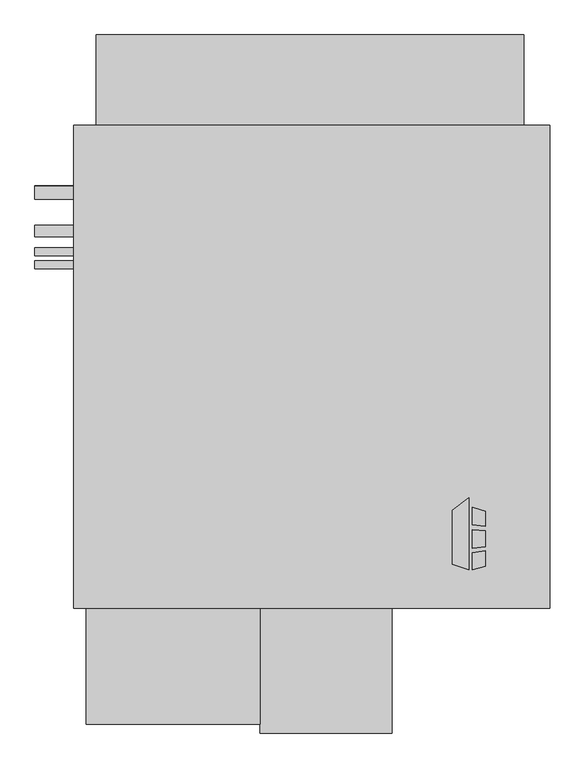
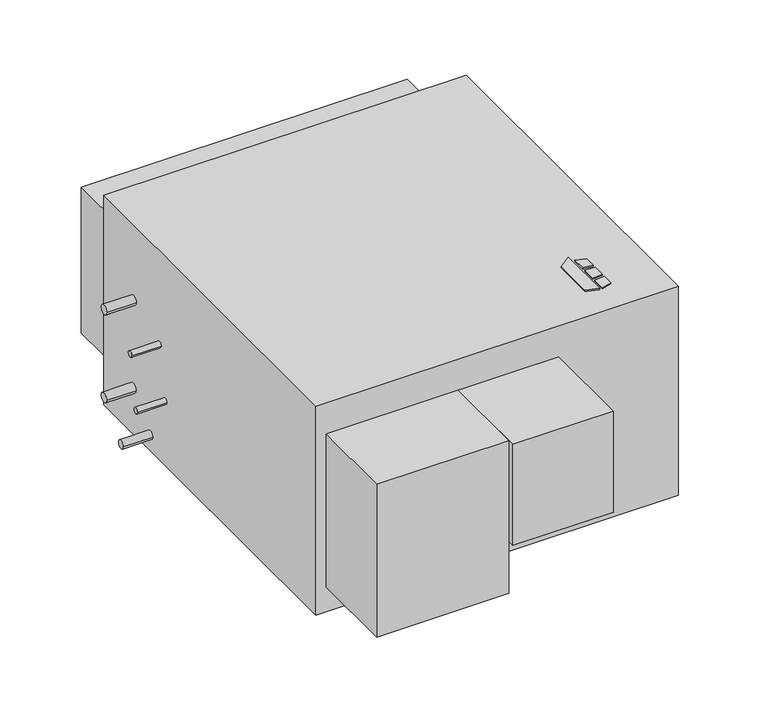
"""IFC4 building model written with IfcOpenShell, lengths in millimetres: proxy geometry, Horizontal_Direct_Drive_Blower_Coil_Unit_-_HDY_-_IEC_-_4-Pipe_LH_2022 : Size 10 - 460v/60Hz/3Ph - 6/2 Coil."""

import ifcopenshell
import ifcopenshell.guid

model = None  # the IFC model being written
_history = None  # IfcOwnerHistory: only IFC2X3 demands one
_inside = {}  # id of a spatial element -> (the spatial element, [elements in it])
_under = {}  # id of a project, library or spatial element -> (it, [spatial elements below it])
_declared = {}  # id of a project -> (the project, [libraries it declares])
_typed = {}  # id of a type object -> (the type object, [elements of that type])
_made_of = {}  # id of a material, layer set ... -> (it, [elements and type objects made of it])


def new_model(schema):
    """Start an empty IFC model of exactly this schema.

    Asked for "IFC4X3", IfcOpenShell would pick the latest addendum, in which some entities
    have other attributes; the version numbers below select the first issue.
    IFC2X3 requires an IfcOwnerHistory on every rooted entity: one is made here for all.
    """
    global model, _history
    if schema == "IFC4X3":
        model = ifcopenshell.file(schema_version=(4, 3, 0, 0))
    else:
        model = ifcopenshell.file(schema=schema)
    _inside.clear()
    _under.clear()
    _declared.clear()
    _typed.clear()
    _made_of.clear()
    _history = None
    if model.schema == "IFC2X3":
        org = make("IfcOrganization", Name="unknown")
        user = make(
            "IfcPersonAndOrganization",
            ThePerson=make("IfcPerson", FamilyName="unknown"),
            TheOrganization=org,
        )
        app = make(
            "IfcApplication",
            ApplicationDeveloper=org,
            Version="unknown",
            ApplicationFullName="unknown",
            ApplicationIdentifier="unknown",
        )
        _history = make(
            "IfcOwnerHistory",
            OwningUser=user,
            OwningApplication=app,
            ChangeAction="ADDED",
            CreationDate=0,
        )
    return model


def make(cls, **values):
    """One entity of the class cls with the attributes given. An attribute that is None is left unset."""
    return model.create_entity(
        cls, **{name: value for name, value in values.items() if value is not None}
    )


def rooted(cls, **values):
    """An entity with a GlobalId (a new one), such as an element, a storey or a relation."""
    return make(cls, GlobalId=ifcopenshell.guid.new(), OwnerHistory=_history, **values)


def si_unit(unit_type, name, prefix=None):
    """IfcSIUnit, for example si_unit("LENGTHUNIT", "METRE", prefix="MILLI")."""
    return make("IfcSIUnit", UnitType=unit_type, Prefix=prefix, Name=name)


def assignment(units):
    """IfcUnitAssignment: the units of a project."""
    return None if units is None else make("IfcUnitAssignment", Units=units)


def point(xyz):
    """IfcCartesianPoint."""
    return None if xyz is None else make("IfcCartesianPoint", Coordinates=xyz)


def direction(xyz):
    """IfcDirection."""
    return None if xyz is None else make("IfcDirection", DirectionRatios=xyz)


def frame(location, z_axis=None, x_axis=None):
    """IfcAxis2Placement3D, a coordinate frame: its origin and axes. An axis left out is left unset."""
    return make(
        "IfcAxis2Placement3D",
        Location=point(location),
        Axis=direction(z_axis),
        RefDirection=direction(x_axis),
    )


def frame_2d(location, x_axis=None):
    """IfcAxis2Placement2D, a coordinate frame in the plane: its origin and x axis."""
    return make(
        "IfcAxis2Placement2D", Location=point(location), RefDirection=direction(x_axis)
    )


def origin():
    """The frame at (0, 0, 0) with its axes left unset."""
    return frame((0.0, 0.0, 0.0))


def origin_with_axes():
    """The frame at (0, 0, 0) with the z axis (0, 0, 1) and the x axis (1, 0, 0) written out."""
    return frame((0.0, 0.0, 0.0), z_axis=(0.0, 0.0, 1.0), x_axis=(1.0, 0.0, 0.0))


def place(relative_to, where):
    """IfcLocalPlacement: puts the frame where relative to a parent placement (None: the world)."""
    return make(
        "IfcLocalPlacement", PlacementRelTo=relative_to, RelativePlacement=where
    )


def context(
    kind, dimensions, precision=None, world=None, true_north=None, identifier=None
):
    """IfcGeometricRepresentationContext, for example the 3D "Model" context."""
    return make(
        "IfcGeometricRepresentationContext",
        ContextIdentifier=identifier,
        ContextType=kind,
        CoordinateSpaceDimension=dimensions,
        Precision=precision,
        WorldCoordinateSystem=world,
        TrueNorth=true_north,
    )


def project(units=None, contexts=None):
    """IfcProject with its units and contexts."""
    return rooted(
        "IfcProject",
        Name="project",
        RepresentationContexts=contexts,
        UnitsInContext=assignment(units),
    )


def spatial(cls, under=None, at=None, **own):
    """A site, building, storey or space (cls), placed at a placement, below another one or the project."""
    s = rooted(cls, ObjectPlacement=at, **own)
    if under is not None:
        _under.setdefault(under.id(), (under, []))[1].append(s)
    return s


def polyline(points):
    """IfcPolyline through the points."""
    return make("IfcPolyline", Points=[point(p) for p in points])


def circle_curve(where, radius):
    """IfcCircle in the frame where."""
    return make("IfcCircle", Position=where, Radius=radius)


def trimmed(basis, trim1, trim2, sense, master):
    """IfcTrimmedCurve: the piece of a basis curve between two trims."""
    return make(
        "IfcTrimmedCurve",
        BasisCurve=basis,
        Trim1=trim1,
        Trim2=trim2,
        SenseAgreement=sense,
        MasterRepresentation=master,
    )


def segment(curve, same_sense, transition):
    """IfcCompositeCurveSegment."""
    return make(
        "IfcCompositeCurveSegment",
        Transition=transition,
        SameSense=same_sense,
        ParentCurve=curve,
    )


def composite_curve(segments, self_intersect=None):
    """IfcCompositeCurve: segments joined end to end."""
    return make("IfcCompositeCurve", Segments=segments, SelfIntersect=self_intersect)


def outline(outer, holes=None, kind="AREA"):
    """IfcArbitraryClosedProfileDef: a profile drawn as a closed curve; with holes, ...WithVoids."""
    if holes is None:
        return make("IfcArbitraryClosedProfileDef", ProfileType=kind, OuterCurve=outer)
    return make(
        "IfcArbitraryProfileDefWithVoids",
        ProfileType=kind,
        OuterCurve=outer,
        InnerCurves=holes,
    )


def extrude(swept, where, along, depth):
    """IfcExtrudedAreaSolid: the profile swept, set in the frame where, extruded along a direction by depth."""
    return make(
        "IfcExtrudedAreaSolid",
        SweptArea=swept,
        Position=where,
        ExtrudedDirection=direction(along),
        Depth=depth,
    )


def shape(context_of_items, identifier, shape_type, items):
    """IfcShapeRepresentation: the items that make up one representation, for example the "Body"."""
    return make(
        "IfcShapeRepresentation",
        ContextOfItems=context_of_items,
        RepresentationIdentifier=identifier,
        RepresentationType=shape_type,
        Items=items,
    )


def source(mapping_origin, context_of_items, identifier, shape_type, items):
    """IfcRepresentationMap: a shape defined once, which mapped items show again and again."""
    return make(
        "IfcRepresentationMap",
        MappingOrigin=mapping_origin,
        MappedRepresentation=shape(context_of_items, identifier, shape_type, items),
    )


def transform(
    local_origin,
    x_axis=None,
    y_axis=None,
    z_axis=None,
    scale=None,
    scale2=None,
    scale3=None,
    uniform=True,
):
    """IfcCartesianTransformationOperator3D, or its non-uniform kind. x_axis, y_axis, z_axis: its Axis1, 2, 3."""
    if uniform:
        return make(
            "IfcCartesianTransformationOperator3D",
            Axis1=direction(x_axis),
            Axis2=direction(y_axis),
            LocalOrigin=point(local_origin),
            Scale=scale,
            Axis3=direction(z_axis),
        )
    return make(
        "IfcCartesianTransformationOperator3DnonUniform",
        Axis1=direction(x_axis),
        Axis2=direction(y_axis),
        LocalOrigin=point(local_origin),
        Scale=scale,
        Axis3=direction(z_axis),
        Scale2=scale2,
        Scale3=scale3,
    )


def mapped(mapping_source, mapping_target):
    """IfcMappedItem: shows the shape of a source again, moved by a transform."""
    return make(
        "IfcMappedItem", MappingSource=mapping_source, MappingTarget=mapping_target
    )


def made_of(thing, what):
    """Note that an element or type object is made of a material, layer set ...; save() writes the relation."""
    if what is not None:
        _made_of.setdefault(what.id(), (what, []))[1].append(thing)
    return thing


def element(
    cls,
    number,
    at=None,
    inside=None,
    cuts=None,
    type_object=None,
    material=None,
    context=None,
    identifier="Body",
    shape_type=None,
    held_by="IfcProductDefinitionShape",
    body=None,
    shapes=None,
    **own,
):
    """One element of the class cls, such as IfcWall. Its Tag is "e" and its number.

    at: its placement. inside: the storey or other place that contains it. cuts: it is an
    opening in that element (IfcRelVoidsElement). A single representation is given by context,
    identifier, shape_type and body (its items); several are given by shapes. held_by: the class
    of the entity that holds the representations. save() writes the other relations.
    """
    e = rooted(cls, Tag="e%d" % number, ObjectPlacement=at, **own)
    if body is not None:
        shapes = [shape(context, identifier, shape_type, body)]
    if shapes is not None:
        e.Representation = make(held_by, Representations=shapes)
    if inside is not None:
        _inside.setdefault(inside.id(), (inside, []))[1].append(e)
    if cuts is not None:
        rooted(
            "IfcRelVoidsElement", RelatingBuildingElement=cuts, RelatedOpeningElement=e
        )
    if type_object is not None:
        _typed.setdefault(type_object.id(), (type_object, []))[1].append(e)
    return made_of(e, material)


def aggregate(whole, parts):
    """IfcRelAggregates: a whole, such as a stair, and the parts it consists of."""
    return rooted("IfcRelAggregates", RelatingObject=whole, RelatedObjects=parts)


def save(model, path):
    """Write the relations noted so far, then the file.

    IfcRelAggregates (storeys below a building ...), IfcRelContainedInSpatialStructure (elements
    in a storey), IfcRelDefinesByType, IfcRelAssociatesMaterial and IfcRelDeclares: one each for
    every whole, place, type object, material and project.
    """
    for whole, parts in _under.values():
        aggregate(whole, parts)
    for where, things in _inside.values():
        rooted(
            "IfcRelContainedInSpatialStructure",
            RelatedElements=things,
            RelatingStructure=where,
        )
    for kind, things in _typed.values():
        rooted("IfcRelDefinesByType", RelatedObjects=things, RelatingType=kind)
    for what, things in _made_of.values():
        rooted("IfcRelAssociatesMaterial", RelatedObjects=things, RelatingMaterial=what)
    for by, libraries in _declared.values():
        rooted("IfcRelDeclares", RelatingContext=by, RelatedDefinitions=libraries)
    model.write(path)


def mechanical_equipment_31d6afd8(model_context):
    return source(origin(), model_context, "Body", "SweptSolid", [
        extrude(outline(polyline([(-319.3980239, -267.6578476), (-286.8397272, -242.2205184), (-286.8397272, -384.175), (-319.3980239, -373.9554201), (-319.3980239, -267.6578476)])), origin_with_axes(), (0.0, 0.0, 1.0), 3.175),
        extrude(outline(polyline([(-280.0813942, -295.529852), (-280.0813942, -261.0499379), (-254.0, -269.2365115), (-254.0, -298.7322446), (-280.0813942, -295.529852)])), origin_with_axes(), (0.0, 0.0, 1.0), 3.175),
        extrude(outline(polyline([(-254.0, -377.1865115), (-280.0813942, -384.175), (-280.0813942, -350.9536996), (-254.0, -347.4118564), (-254.0, -377.1865115)])), origin_with_axes(), (0.0, 0.0, 1.0), 3.175),
        extrude(outline(polyline([(-254.0, -307.8138277), (-254.0, -339.063983), (-280.0813942, -341.805248), (-280.0813942, -305.9475378), (-254.0, -307.8138277)])), origin_with_axes(), (0.0, 0.0, 1.0), 3.175),
        extrude(outline(composite_curve([segment(trimmed(circle_curve(frame_2d((358.775, -205.7657415)), 12.7), [point((371.475, -205.7657415))], [point((346.075, -205.7657415))], False, "CARTESIAN"), True, "CONTINUOUS"), segment(trimmed(circle_curve(frame_2d((358.775, -205.7657415)), 12.7), [point((346.075, -205.7657415))], [point((371.475, -205.7657415))], False, "CARTESIAN"), True, "CONTINUOUS")], self_intersect=False)), frame((-1143.0, 0.0, 0.0), z_axis=(1.0, 0.0, 0.0), x_axis=(0.0, 1.0, 0.0)), (0.0, 0.0, 1.0), 76.2),
        extrude(outline(composite_curve([segment(trimmed(circle_curve(frame_2d((359.642288, -447.0657415)), 12.7), [point((372.342288, -447.0657415))], [point((346.942288, -447.0657415))], False, "CARTESIAN"), True, "CONTINUOUS"), segment(trimmed(circle_curve(frame_2d((359.642288, -447.0657415)), 12.7), [point((346.942288, -447.0657415))], [point((372.342288, -447.0657415))], False, "CARTESIAN"), True, "CONTINUOUS")], self_intersect=False)), frame((-1143.0, 0.0, 0.0), z_axis=(1.0, 0.0, 0.0), x_axis=(0.0, 1.0, 0.0)), (0.0, 0.0, 1.0), 76.2),
        extrude(outline(composite_curve([segment(trimmed(circle_curve(frame_2d((283.442288, -529.6157415)), 11.1125), [point((294.554788, -529.6157415))], [point((272.329788, -529.6157415))], False, "CARTESIAN"), True, "CONTINUOUS"), segment(trimmed(circle_curve(frame_2d((283.442288, -529.6157415)), 11.1125), [point((272.329788, -529.6157415))], [point((294.554788, -529.6157415))], False, "CARTESIAN"), True, "CONTINUOUS")], self_intersect=False)), frame((-1143.0, 0.0, 0.0), z_axis=(1.0, 0.0, 0.0), x_axis=(0.0, 1.0, 0.0)), (0.0, 0.0, 1.0), 76.2),
        extrude(outline(composite_curve([segment(trimmed(circle_curve(frame_2d((242.167288, -256.5657415)), 7.9375), [point((250.104788, -256.5657415))], [point((234.229788, -256.5657415))], False, "CARTESIAN"), True, "CONTINUOUS"), segment(trimmed(circle_curve(frame_2d((242.167288, -256.5657415)), 7.9375), [point((234.229788, -256.5657415))], [point((250.104788, -256.5657415))], False, "CARTESIAN"), True, "CONTINUOUS")], self_intersect=False)), frame((-1143.0, 0.0, 0.0), z_axis=(1.0, 0.0, 0.0), x_axis=(0.0, 1.0, 0.0)), (0.0, 0.0, 1.0), 76.2),
        extrude(outline(composite_curve([segment(trimmed(circle_curve(frame_2d((216.767288, -396.5449971)), 7.9375), [point((224.704788, -396.5449971))], [point((208.829788, -396.5449971))], False, "CARTESIAN"), True, "CONTINUOUS"), segment(trimmed(circle_curve(frame_2d((216.767288, -396.5449971)), 7.9375), [point((208.829788, -396.5449971))], [point((224.704788, -396.5449971))], False, "CARTESIAN"), True, "CONTINUOUS")], self_intersect=False)), frame((-1143.0, 0.0, 0.0), z_axis=(1.0, 0.0, 0.0), x_axis=(0.0, 1.0, 0.0)), (0.0, 0.0, 1.0), 76.2),
        extrude(outline(polyline([(-127.0, 492.125), (-127.0, -460.375), (-1066.8, -460.375), (-1066.8, 492.125), (-127.0, 492.125)])), frame((0.0, 0.0, -574.0657415), z_axis=(0.0, 0.0, 1.0), x_axis=(1.0, 0.0, 0.0)), (0.0, 0.0, 1.0), 574.0657415),
        extrude(outline(polyline([(-698.5, -688.975), (-1041.4, -688.975), (-1041.4, -460.375), (-698.5, -460.375), (-698.5, -688.975)])), frame((0.0, 0.0, -504.2157415), z_axis=(0.0, 0.0, 1.0), x_axis=(1.0, 0.0, 0.0)), (0.0, 0.0, 1.0), 419.1),
        extrude(outline(polyline([(-1022.35, 669.925), (-177.8, 669.925), (-177.8, 492.125), (-1022.35, 492.125), (-1022.35, 669.925)])), frame((0.0, 0.0, -501.0407415), z_axis=(0.0, 0.0, 1.0), x_axis=(1.0, 0.0, 0.0)), (0.0, 0.0, 1.0), 400.05),
        extrude(outline(polyline([(-438.15, -706.4375), (-698.5, -706.4375), (-698.5, -460.375), (-438.15, -460.375), (-438.15, -706.4375)])), frame((0.0, 0.0, -361.3407415), z_axis=(0.0, 0.0, 1.0), x_axis=(1.0, 0.0, 0.0)), (0.0, 0.0, 1.0), 276.225),
    ])


if __name__ == "__main__":
    model = new_model("IFC4")
    model_context = context("Model", 3, world=origin())
    ifc_project = project(units=[si_unit("LENGTHUNIT", "METRE", prefix="MILLI")], contexts=[model_context])
    site = spatial("IfcSite", under=ifc_project)
    building = spatial("IfcBuilding", under=site)
    placement = place(None, origin())
    mechanical_equipment_shape = mechanical_equipment_31d6afd8(model_context)
    element("IfcBuildingElementProxy", 1, Name="Horizontal_Direct_Drive_Blower_Coil_Unit_-_HDY_-_IEC_-_4-Pipe_LH_2022 : Size 10 - 460v/60Hz/3Ph - 6/2 Coil", ObjectType="Horizontal_Direct_Drive_Blower_Coil_Unit_-_HDY_-_IEC_-_4-Pipe_LH_2022 : Size 10 - 460v/60Hz/3Ph - 6/2 Coil", at=placement, inside=building, context=model_context, shape_type="MappedRepresentation", body=[
        mapped(mechanical_equipment_shape, transform((0.0, 0.0, 0.0), x_axis=(1.0, 0.0, 0.0), y_axis=(0.0, 1.0, 0.0), z_axis=(0.0, 0.0, 1.0))),
    ])
    save(model, "model.ifc")
